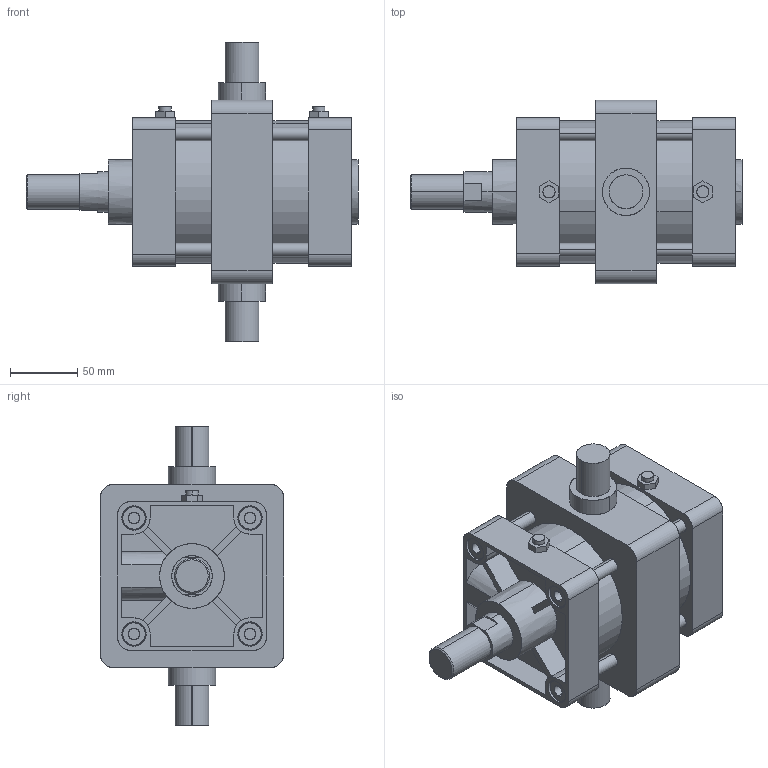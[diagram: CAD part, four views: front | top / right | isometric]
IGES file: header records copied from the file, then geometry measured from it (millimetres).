
Start section: SolidWorks IGES file using analytic representation for surfaces
Global section: file name: C:\Users\Toshiba\Desktop\KG2-100-50-T.IGS; native system: SolidWorks 2014; preprocessor: SolidWorks 2014; author: Toshiba; date: 160401.162416; units: millimetre
Bounding box: 246 x 136 x 222 mm (x, y, z)
Surface area: 276237.1 mm2 (no closed solid volume)
Topology: 0 solids, 0 shells, 337 faces, 5653 edges, 5649 vertices
Faces by surface type: bspline 174, revolution 163
